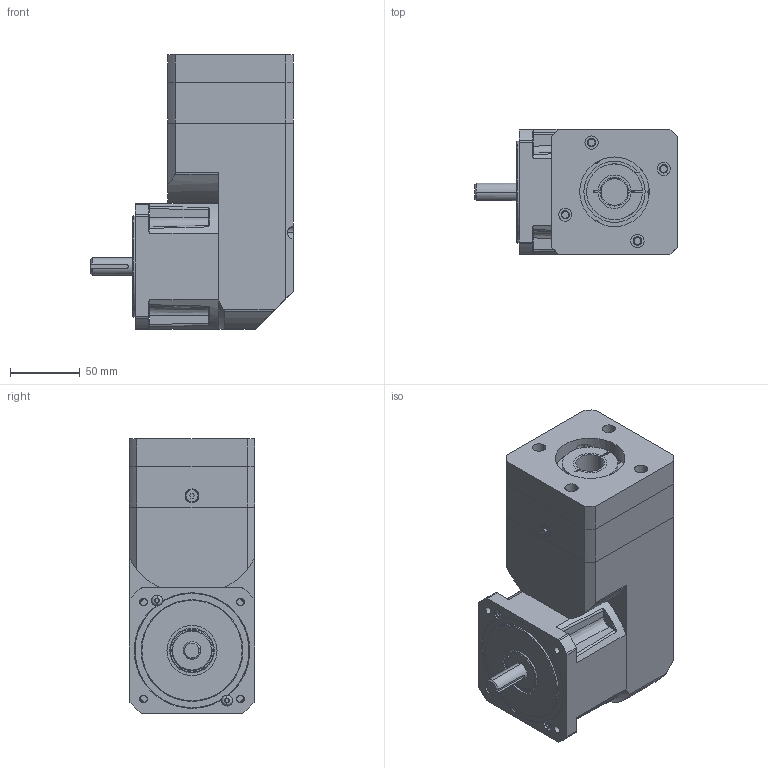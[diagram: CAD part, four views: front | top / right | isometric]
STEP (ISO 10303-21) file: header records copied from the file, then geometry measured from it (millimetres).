
FILE_DESCRIPTION((''),'2;1');
FILE_NAME('GEN_II_RX34_SHORT_ADAPT','2008-11-20T',('aza7363'),(''),'PRO/ENGINEER BY PARAMETRIC TECHNOLOGY CORPORATION, 2006300','PRO/ENGINEER BY PARAMETRIC TECHNOLOGY CORPORATION, 2006300','');
FILE_SCHEMA(('CONFIG_CONTROL_DESIGN'));
Length unit declared in the file: millimetre
Products named in the file (1): GEN_II_RX34_SHORT_ADAPT
Bounding box: 145.25 x 90 x 197 mm (x, y, z)
Surface area: 125176.8 mm2 (no closed solid volume)
Topology: 0 solids, 33 shells, 370 faces, 1084 edges, 756 vertices
Faces by surface type: plane 169, cylinder 133, bspline 35, cone 21, torus 12
Entity records: 14219 total; most frequent: CARTESIAN_POINT 4516, DIRECTION 2007, ORIENTED_EDGE 1845, EDGE_CURVE 1084, VERTEX_POINT 756, AXIS2_PLACEMENT_3D 738, VECTOR 531, LINE 531
